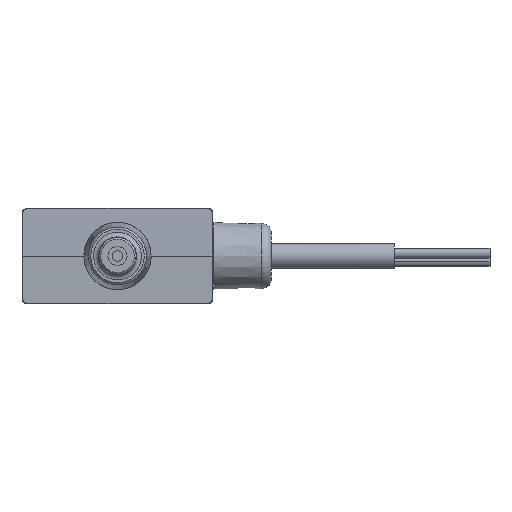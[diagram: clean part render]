
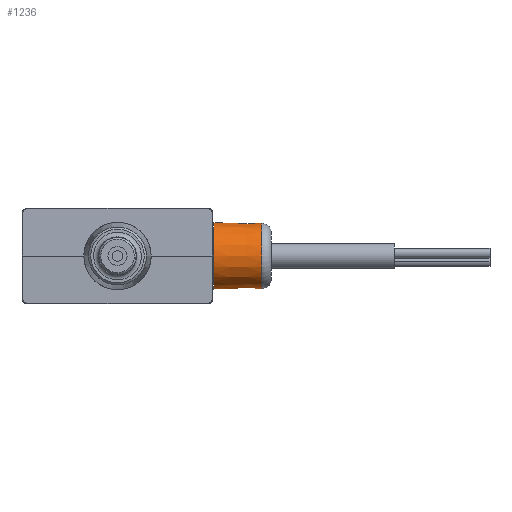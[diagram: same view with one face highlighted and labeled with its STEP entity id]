
A CAD part, front view. The second image highlights one B-rep face of the part: STEP entity #1236.
In plain terms, the highlighted conical face has half-angle 1 degrees and reference radius 3.456 mm.
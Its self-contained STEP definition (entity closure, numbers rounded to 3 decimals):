
#1236=ADVANCED_FACE('',(#2536,#2537),#2538,.T.);
#2536=FACE_BOUND('',#4208,.T.);
#2537=FACE_OUTER_BOUND('',#4209,.T.);
#2538=CONICAL_SURFACE('',#4210,3.456,0.017);
#4208=EDGE_LOOP('',(#7756));
#4209=EDGE_LOOP('',(#7757));
#4210=AXIS2_PLACEMENT_3D('',#7758,#7759,#7760);
#7756=ORIENTED_EDGE('',*,*,#9757,.T.);
#7757=ORIENTED_EDGE('',*,*,#9760,.T.);
#7758=CARTESIAN_POINT('',(12.609,3.1,0.0));
#7759=DIRECTION('',(-1.0,0.0,-0.0));
#7760=DIRECTION('',(0.0,1.0,0.0));
#9757=EDGE_CURVE('',#11978,#11978,#11979,.T.);
#9760=EDGE_CURVE('',#11982,#11982,#11983,.T.);
#11978=VERTEX_POINT('',#15894);
#11979=CIRCLE('',#15895,3.412);
#11982=VERTEX_POINT('',#15898);
#11983=CIRCLE('',#15899,3.5);
#15894=CARTESIAN_POINT('',(15.117,6.512,0.0));
#15895=AXIS2_PLACEMENT_3D('',#17549,#17550,#17551);
#15898=CARTESIAN_POINT('',(10.1,6.6,0.0));
#15899=AXIS2_PLACEMENT_3D('',#17552,#17553,#17554);
#17549=CARTESIAN_POINT('',(15.117,3.1,0.0));
#17550=DIRECTION('',(-1.0,0.0,0.0));
#17551=DIRECTION('',(0.0,1.0,0.0));
#17552=CARTESIAN_POINT('',(10.1,3.1,0.0));
#17553=DIRECTION('',(1.0,0.0,0.0));
#17554=DIRECTION('',(0.0,1.0,0.0));
